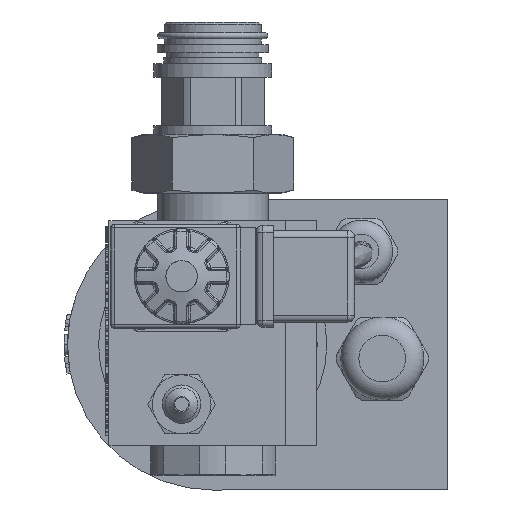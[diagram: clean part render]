
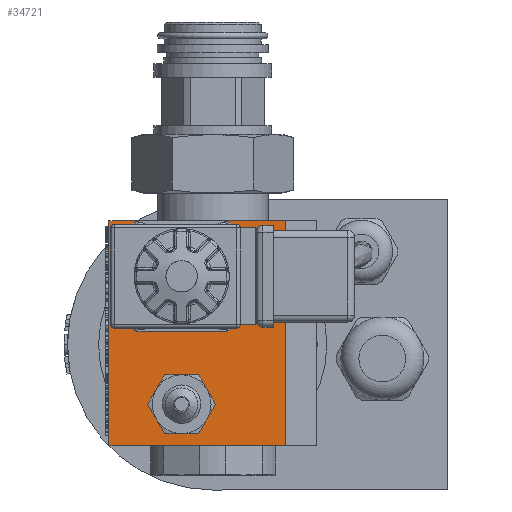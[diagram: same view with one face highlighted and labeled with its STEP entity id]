
A CAD part, left-side view. The second image highlights one B-rep face of the part: STEP entity #34721.
In plain terms, the highlighted planar face has unit normal (-1, 0, 0).
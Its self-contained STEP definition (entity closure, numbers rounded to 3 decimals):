
#4298=LINE('',#61435,#7150);
#4395=LINE('',#62123,#7247);
#4397=LINE('',#62137,#7249);
#4399=LINE('',#62149,#7251);
#4401=LINE('',#62161,#7253);
#4413=LINE('',#63203,#7265);
#4414=LINE('',#63204,#7266);
#4415=LINE('',#63205,#7267);
#7150=VECTOR('',#41322,65.);
#7247=VECTOR('',#41823,24.);
#7249=VECTOR('',#41839,24.);
#7251=VECTOR('',#41853,24.);
#7253=VECTOR('',#41867,24.);
#7265=VECTOR('',#42143,65.);
#7266=VECTOR('',#42144,51.);
#7267=VECTOR('',#42145,51.);
#8168=FACE_BOUND('',#12614,.T.);
#8169=FACE_BOUND('',#12615,.T.);
#9012=PLANE('',#36476);
#10501=FACE_OUTER_BOUND('',#12613,.T.);
#12613=EDGE_LOOP('',(#20363,#20364,#20365,#20366));
#12614=EDGE_LOOP('',(#20367,#20368,#20369,#20370,#20371,#20372));
#12615=EDGE_LOOP('',(#20373,#20374,#20375,#20376,#20377,#20378,#20379,#20380));
#20363=ORIENTED_EDGE('',*,*,#26911,.F.);
#20364=ORIENTED_EDGE('',*,*,#26912,.T.);
#20365=ORIENTED_EDGE('',*,*,#26530,.T.);
#20366=ORIENTED_EDGE('',*,*,#26913,.T.);
#20367=ORIENTED_EDGE('',*,*,#26914,.T.);
#20368=ORIENTED_EDGE('',*,*,#26915,.T.);
#20369=ORIENTED_EDGE('',*,*,#26916,.T.);
#20370=ORIENTED_EDGE('',*,*,#26917,.T.);
#20371=ORIENTED_EDGE('',*,*,#26918,.T.);
#20372=ORIENTED_EDGE('',*,*,#26919,.T.);
#20373=ORIENTED_EDGE('',*,*,#26762,.T.);
#20374=ORIENTED_EDGE('',*,*,#26766,.T.);
#20375=ORIENTED_EDGE('',*,*,#26769,.T.);
#20376=ORIENTED_EDGE('',*,*,#26772,.T.);
#20377=ORIENTED_EDGE('',*,*,#26775,.T.);
#20378=ORIENTED_EDGE('',*,*,#26778,.T.);
#20379=ORIENTED_EDGE('',*,*,#26781,.T.);
#20380=ORIENTED_EDGE('',*,*,#26784,.T.);
#26530=EDGE_CURVE('',#30492,#30490,#4298,.T.);
#26762=EDGE_CURVE('',#30644,#30645,#4395,.T.);
#26766=EDGE_CURVE('',#30645,#30648,#31716,.T.);
#26769=EDGE_CURVE('',#30648,#30650,#4397,.T.);
#26772=EDGE_CURVE('',#30650,#30652,#31720,.T.);
#26775=EDGE_CURVE('',#30652,#30654,#4399,.T.);
#26778=EDGE_CURVE('',#30654,#30656,#31724,.T.);
#26781=EDGE_CURVE('',#30656,#30658,#4401,.T.);
#26784=EDGE_CURVE('',#30658,#30644,#31728,.T.);
#26911=EDGE_CURVE('',#30719,#30720,#4413,.T.);
#26912=EDGE_CURVE('',#30719,#30492,#4414,.T.);
#26913=EDGE_CURVE('',#30490,#30720,#4415,.T.);
#26914=EDGE_CURVE('',#30721,#30722,#31799,.T.);
#26915=EDGE_CURVE('',#30722,#30723,#31800,.T.);
#26916=EDGE_CURVE('',#30723,#30724,#31801,.T.);
#26917=EDGE_CURVE('',#30724,#30725,#31802,.T.);
#26918=EDGE_CURVE('',#30725,#30726,#31803,.T.);
#26919=EDGE_CURVE('',#30726,#30721,#31804,.T.);
#30490=VERTEX_POINT('',#61431);
#30492=VERTEX_POINT('',#61434);
#30644=VERTEX_POINT('',#62121);
#30645=VERTEX_POINT('',#62122);
#30648=VERTEX_POINT('',#62130);
#30650=VERTEX_POINT('',#62136);
#30652=VERTEX_POINT('',#62142);
#30654=VERTEX_POINT('',#62148);
#30656=VERTEX_POINT('',#62154);
#30658=VERTEX_POINT('',#62160);
#30719=VERTEX_POINT('',#63201);
#30720=VERTEX_POINT('',#63202);
#30721=VERTEX_POINT('',#63206);
#30722=VERTEX_POINT('',#63207);
#30723=VERTEX_POINT('',#63209);
#30724=VERTEX_POINT('',#63211);
#30725=VERTEX_POINT('',#63213);
#30726=VERTEX_POINT('',#63215);
#31716=CIRCLE('',#36329,3.975);
#31720=CIRCLE('',#36335,3.975);
#31724=CIRCLE('',#36341,3.975);
#31728=CIRCLE('',#36347,3.975);
#31799=CIRCLE('',#36477,8.5);
#31800=CIRCLE('',#36478,8.5);
#31801=CIRCLE('',#36479,8.5);
#31802=CIRCLE('',#36480,8.5);
#31803=CIRCLE('',#36481,8.5);
#31804=CIRCLE('',#36482,8.5);
#34721=ADVANCED_FACE('',(#10501,#8168,#8169),#9012,.T.);
#36329=AXIS2_PLACEMENT_3D('',#62131,#41831,#41832);
#36335=AXIS2_PLACEMENT_3D('',#62143,#41845,#41846);
#36341=AXIS2_PLACEMENT_3D('',#62155,#41859,#41860);
#36347=AXIS2_PLACEMENT_3D('',#62166,#41873,#41874);
#36476=AXIS2_PLACEMENT_3D('',#63200,#42141,#42142);
#36477=AXIS2_PLACEMENT_3D('',#63208,#42146,#42147);
#36478=AXIS2_PLACEMENT_3D('',#63210,#42148,#42149);
#36479=AXIS2_PLACEMENT_3D('',#63212,#42150,#42151);
#36480=AXIS2_PLACEMENT_3D('',#63214,#42152,#42153);
#36481=AXIS2_PLACEMENT_3D('',#63216,#42154,#42155);
#36482=AXIS2_PLACEMENT_3D('',#63217,#42156,#42157);
#41322=DIRECTION('',(0.,0.,-1.));
#41823=DIRECTION('',(0.,0.,1.));
#41831=DIRECTION('center_axis',(1.,0.,0.));
#41832=DIRECTION('ref_axis',(0.,0.,-1.));
#41839=DIRECTION('',(0.,-1.,0.));
#41845=DIRECTION('center_axis',(1.,0.,0.));
#41846=DIRECTION('ref_axis',(0.,0.,-1.));
#41853=DIRECTION('',(0.,0.,-1.));
#41859=DIRECTION('center_axis',(1.,0.,0.));
#41860=DIRECTION('ref_axis',(0.,0.,-1.));
#41867=DIRECTION('',(0.,1.,0.));
#41873=DIRECTION('center_axis',(1.,0.,0.));
#41874=DIRECTION('ref_axis',(0.,0.,-1.));
#42141=DIRECTION('center_axis',(-1.,0.,0.));
#42142=DIRECTION('ref_axis',(0.,0.,1.));
#42143=DIRECTION('',(0.,0.,-1.));
#42144=DIRECTION('',(0.,1.,0.));
#42145=DIRECTION('',(0.,-1.,0.));
#42146=DIRECTION('center_axis',(1.,0.,0.));
#42147=DIRECTION('ref_axis',(0.,-0.5,
0.866));
#42148=DIRECTION('center_axis',(1.,0.,0.));
#42149=DIRECTION('ref_axis',(0.,-0.5,
0.866));
#42150=DIRECTION('center_axis',(1.,0.,0.));
#42151=DIRECTION('ref_axis',(0.,-0.5,
0.866));
#42152=DIRECTION('center_axis',(1.,0.,0.));
#42153=DIRECTION('ref_axis',(0.,-0.5,
0.866));
#42154=DIRECTION('center_axis',(1.,0.,0.));
#42155=DIRECTION('ref_axis',(0.,-0.5,
0.866));
#42156=DIRECTION('center_axis',(1.,0.,0.));
#42157=DIRECTION('ref_axis',(0.,-0.5,
0.866));
#61431=CARTESIAN_POINT('',(-34.,59.5,0.));
#61434=CARTESIAN_POINT('',(-34.,59.5,65.));
#61435=CARTESIAN_POINT('',(-34.,59.5,65.));
#62121=CARTESIAN_POINT('',(-34.,54.475,37.));
#62122=CARTESIAN_POINT('',(-34.,54.475,61.));
#62123=CARTESIAN_POINT('',(-34.,54.475,36.52));
#62130=CARTESIAN_POINT('',(-34.,50.5,64.975));
#62131=CARTESIAN_POINT('Origin',(-34.,50.5,61.));
#62136=CARTESIAN_POINT('',(-34.,26.5,64.975));
#62137=CARTESIAN_POINT('',(-34.,50.98,64.975));
#62142=CARTESIAN_POINT('',(-34.,22.525,61.));
#62143=CARTESIAN_POINT('Origin',(-34.,26.5,61.));
#62148=CARTESIAN_POINT('',(-34.,22.525,37.));
#62149=CARTESIAN_POINT('',(-34.,22.525,61.48));
#62154=CARTESIAN_POINT('',(-34.,26.5,33.025));
#62155=CARTESIAN_POINT('Origin',(-34.,26.5,37.));
#62160=CARTESIAN_POINT('',(-34.,50.5,33.025));
#62161=CARTESIAN_POINT('',(-34.,26.02,33.025));
#62166=CARTESIAN_POINT('Origin',(-34.,50.5,37.));
#63200=CARTESIAN_POINT('Origin',(-34.,29.5,32.5));
#63201=CARTESIAN_POINT('',(-34.,8.5,65.));
#63202=CARTESIAN_POINT('',(-34.,8.5,0.));
#63203=CARTESIAN_POINT('',(-34.,8.5,32.5));
#63204=CARTESIAN_POINT('',(-34.,-0.5,65.));
#63205=CARTESIAN_POINT('',(-34.,59.5,0.));
#63206=CARTESIAN_POINT('',(-34.,45.861,7.75));
#63207=CARTESIAN_POINT('',(-34.,45.861,16.25));
#63208=CARTESIAN_POINT('Origin',(-34.,38.5,12.));
#63209=CARTESIAN_POINT('',(-34.,38.5,20.5));
#63210=CARTESIAN_POINT('Origin',(-34.,38.5,12.));
#63211=CARTESIAN_POINT('',(-34.,31.139,16.25));
#63212=CARTESIAN_POINT('Origin',(-34.,38.5,12.));
#63213=CARTESIAN_POINT('',(-34.,31.139,7.75));
#63214=CARTESIAN_POINT('Origin',(-34.,38.5,12.));
#63215=CARTESIAN_POINT('',(-34.,38.5,3.5));
#63216=CARTESIAN_POINT('Origin',(-34.,38.5,12.));
#63217=CARTESIAN_POINT('Origin',(-34.,38.5,12.));
